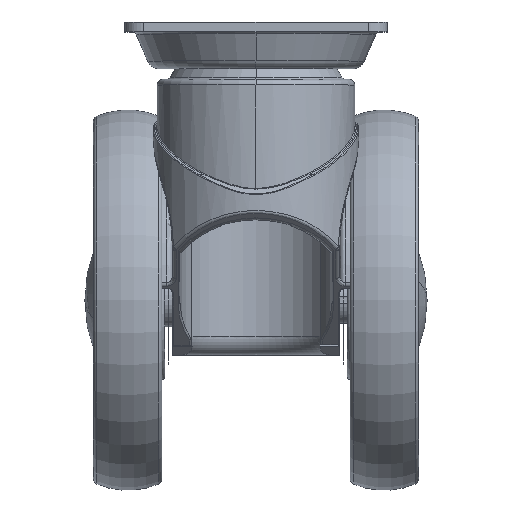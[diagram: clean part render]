
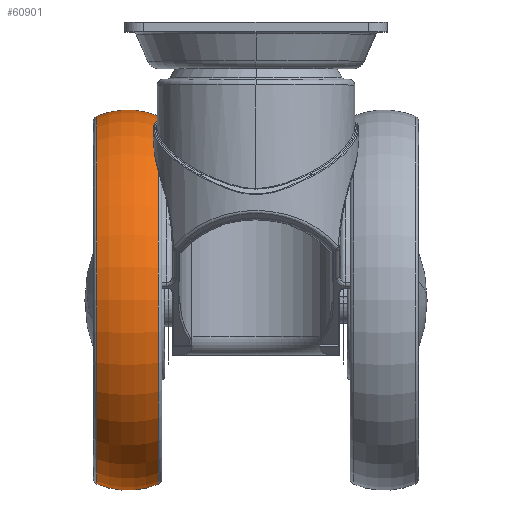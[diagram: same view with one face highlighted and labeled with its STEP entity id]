
A CAD part, top view. The second image highlights one B-rep face of the part: STEP entity #60901.
In plain terms, the highlighted toroidal (fillet/blend) face has major radius 28.75 mm and minor radius 21.25 mm.
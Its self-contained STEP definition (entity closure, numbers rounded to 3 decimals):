
#60751=CARTESIAN_POINT('',(-41.82,0.,0.));
#60752=DIRECTION('',(-1.,0.,0.));
#60753=DIRECTION('',(0.,-1.,0.));
#60754=AXIS2_PLACEMENT_3D('',#60751,#60752,#60753);
#60756=CARTESIAN_POINT('',(-25.68,0.,0.));
#60757=DIRECTION('',(-1.,0.,0.));
#60758=DIRECTION('',(0.,-1.,0.));
#60759=AXIS2_PLACEMENT_3D('',#60756,#60757,#60758);
#60796=CARTESIAN_POINT('',(-33.75,-28.75,0.));
#60797=DIRECTION('',(0.,0.,-1.));
#60798=DIRECTION('',(0.38,-0.925,0.));
#60799=AXIS2_PLACEMENT_3D('',#60796,#60797,#60798);
#60806=CARTESIAN_POINT('',(-33.75,28.75,0.));
#60807=DIRECTION('',(0.,0.,1.));
#60808=DIRECTION('',(0.38,0.925,0.));
#60809=AXIS2_PLACEMENT_3D('',#60806,#60807,#60808);
#60828=CARTESIAN_POINT('',(-41.82,-48.408,0.));
#60829=CARTESIAN_POINT('',(-41.82,48.408,
0.));
#60830=VERTEX_POINT('',#60828);
#60831=VERTEX_POINT('',#60829);
#60832=CARTESIAN_POINT('',(-25.68,-48.408,0.));
#60833=CARTESIAN_POINT('',(-25.68,48.408,
0.));
#60834=VERTEX_POINT('',#60832);
#60835=VERTEX_POINT('',#60833);
#60887=CARTESIAN_POINT('',(-33.75,0.,0.));
#60888=DIRECTION('',(1.,0.,0.));
#60889=DIRECTION('',(0.,-1.,0.));
#60890=AXIS2_PLACEMENT_3D('',#60887,#60888,#60889);
#60891=TOROIDAL_SURFACE('',#60890,28.75,21.25);
#60893=ORIENTED_EDGE('',*,*,#60892,.T.);
#60895=ORIENTED_EDGE('',*,*,#60894,.F.);
#60896=ORIENTED_EDGE('',*,*,#60870,.F.);
#60898=ORIENTED_EDGE('',*,*,#60897,.T.);
#60899=EDGE_LOOP('',(#60893,#60895,#60896,#60898));
#60900=FACE_OUTER_BOUND('',#60899,.F.);
#60755=CIRCLE('',#60754,48.408);
#60760=CIRCLE('',#60759,48.408);
#60800=CIRCLE('',#60799,21.25);
#60810=CIRCLE('',#60809,21.25);
#60870=EDGE_CURVE('',#60834,#60835,#60760,.T.);
#60892=EDGE_CURVE('',#60830,#60831,#60755,.T.);
#60894=EDGE_CURVE('',#60835,#60831,#60810,.T.);
#60897=EDGE_CURVE('',#60834,#60830,#60800,.T.);
#60901=ADVANCED_FACE('',(#60900),#60891,.T.);
